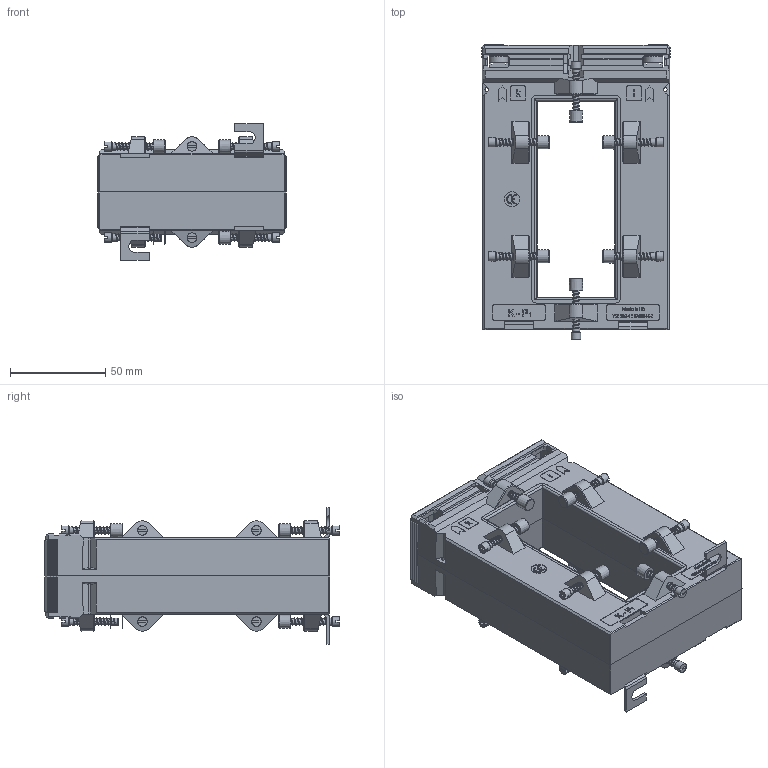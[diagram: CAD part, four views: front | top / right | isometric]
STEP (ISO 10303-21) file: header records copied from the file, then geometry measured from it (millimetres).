
FILE_DESCRIPTION(/* description */ (''),/* implementation_level */ '2;1');
FILE_NAME(/* name */ 'ASK103.41.stp',/* time_stamp */ '2024-03-04T14:09:32+01:00',/* author */ ('JDI'),/* organization */ (''),/* preprocessor_version */ 'ST-DEVELOPER v19.2',/* originating_system */ 'Autodesk Inventor 2023',/* authorisation */ '');
FILE_SCHEMA (('AUTOMOTIVE_DESIGN { 1 0 10303 214 3 1 1 }'));
Products named in the file (1): ASK103.41
Bounding box: 99 x 155 x 72 mm (x, y, z)
Volume: 418868.5 mm3; surface area: 73482.9 mm2
Topology: 1 solids, 1 shells, 2213 faces, 6058 edges, 3932 vertices
Faces by surface type: plane 1314, cylinder 531, bspline 282, cone 78, sphere 4, torus 4
Full cylindrical faces by diameter (mm): 2 x2, 3 x158, 3.4 x50, 3.8 x24, 4 x51, 4.1 x12, 5 x16, 5.3 x4, 8 x2, 10 x4
Entity records: 120370 total; most frequent: CARTESIAN_POINT 65485, ORIENTED_EDGE 12116, DIRECTION 9155, EDGE_CURVE 6058, LINE 3981, VECTOR 3981, VERTEX_POINT 3932, AXIS2_PLACEMENT_3D 2587
